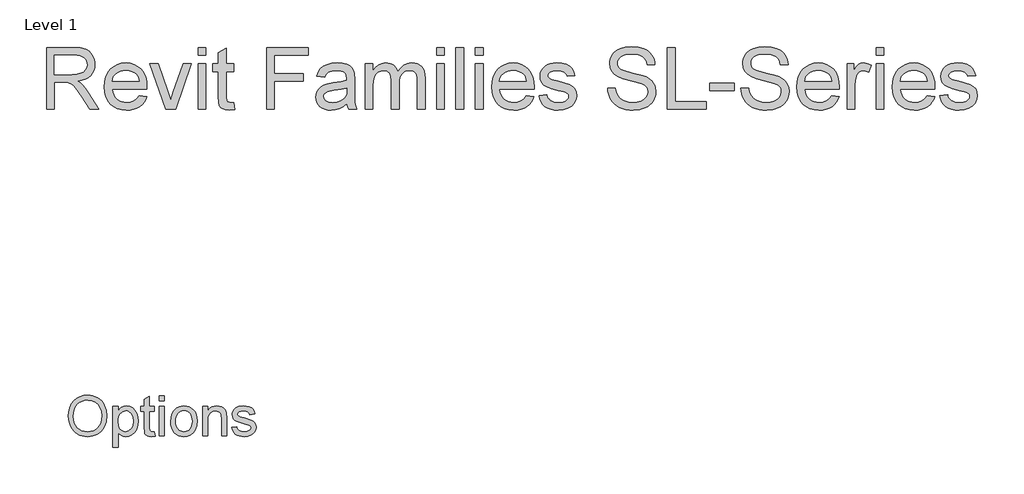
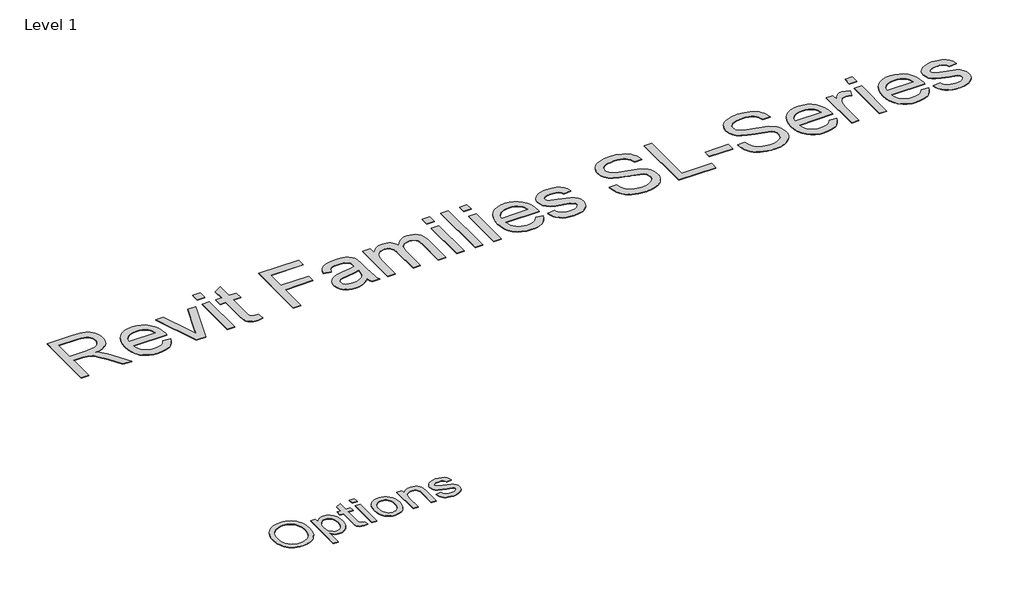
# One storey, part 48 of 52: 2 proxies.
"""IFC4 building model written with IfcOpenShell, lengths in millimetres."""

from ifc_helpers import new_model, si_unit, origin, origin_with_axes, place, context, project, spatial, polyline, outline, extrude, element, save

model = new_model("IFC4")

# Units and contexts
model_context = context("Model", 3, world=origin())
ifc_project = project(units=[si_unit("LENGTHUNIT", "METRE", prefix="MILLI")], contexts=[model_context])

# Site, building, storey
site = spatial("IfcSite", under=ifc_project)
building = spatial("IfcBuilding", under=site)
storey = spatial("IfcBuildingStorey", under=building, Name="Level 1", Elevation=0.0)

# Proxies
placement = place(None, origin())
element("IfcBuildingElementProxy", 1, Name="400mm Arial", ObjectType="400mm Arial", at=placement, inside=storey, context=model_context, shape_type="SweptSolid", body=[
    extrude(outline(polyline([(-6462.261333, 17542.0194987), (-6458.9974836, 17587.9704339), (-6449.2059353, 17628.6489968), (-6432.8866881, 17664.0551876), (-6410.0397421, 17694.1890063), (-6382.0340011, 17718.2494348), (-6350.238369, 17735.4354552), (-6314.6528458, 17745.7470674), (-6275.2774315, 17749.1842715), (-6248.9215484, 17747.57028), (-6223.892725, 17742.7283055), (-6200.1909613, 17734.6583482), (-6177.8162572, 17723.3604078), (-6157.3962762, 17709.1752161), (-6139.5586815, 17692.4435044), (-6124.3034732, 17673.1652729), (-6111.6306512, 17651.3405215), (-6101.671726, 17627.4654031), (-6094.558208, 17602.0360707), (-6088.8673936, 17546.5147639), (-6094.8570953, 17490.2522165), (-6102.3442224, 17464.4701971), (-6112.8262004, 17440.2543472), (-6126.0549528, 17418.2442857), (-6141.7824031, 17399.0796313), (-6160.0085513, 17382.7603841), (-6180.7333974, 17369.2865442), (-6226.4153339, 17351.2098396), (-6275.5643633, 17345.1842715), (-6302.3805328, 17346.8490738), (-6327.7381322, 17351.8434807), (-6351.6371616, 17360.1674923), (-6374.0776209, 17371.8211086), (-6394.473691, 17386.3530096), (-6412.2395527, 17403.3118756), (-6427.3752061, 17422.6977066), (-6439.8806512, 17444.5105025), (-6456.6661625, 17491.91403), (-6462.261333, 17542.0194987)]), holes=[polyline([(-6413.291636, 17541.541279), (-6410.843749, 17509.0761393), (-6403.5000877, 17480.2574249), (-6391.2606524, 17455.0851356), (-6374.1254429, 17433.5592715), (-6353.2959862, 17416.3194514), (-6329.9738093, 17404.0052942), (-6304.1589123, 17396.6167999), (-6275.8512951, 17394.1539684), (-6247.0594805, 17396.6407108), (-6220.9397184, 17404.1009381), (-6197.4920089, 17416.5346502), (-6176.7163519, 17433.9418472), (-6159.7066751, 17455.92202), (-6147.5569059, 17482.0746597), (-6140.2670444, 17512.3997662), (-6137.8370906, 17546.8973396), (-6141.9976019, 17590.2479552), (-6154.479136, 17627.7164684), (-6174.9588946, 17658.3583955), (-6203.1140792, 17681.2292525), (-6237.0796332, 17695.468244), (-6274.9904997, 17700.2145745), (-6302.3147776, 17697.9280866), (-6327.6663993, 17691.0686228), (-6351.0453647, 17679.6361831), (-6372.4516739, 17663.6307677), (-6390.3191573, 17642.2812471), (-6403.0816455, 17614.8164921), (-6410.7391384, 17581.2365027), (-6413.291636, 17541.541279)])]), origin_with_axes(), (0.0, 0.0, 1.0), 5.0),
    extrude(outline(polyline([(-6027.6552724, 17241.1236654), (-6027.6552724, 17639.0024533), (-5978.6855754, 17639.0024533), (-5978.6855754, 17590.9891957), (-5962.7130375, 17614.6730262), (-5944.8276209, 17631.590048), (-5923.9772421, 17641.740261), (-5899.1098179, 17645.1236654), (-5865.9931038, 17640.3892904), (-5837.0369012, 17626.1861654), (-5813.4606701, 17603.3750858), (-5796.4838709, 17572.8168472), (-5786.2260584, 17536.7351711), (-5782.8067875, 17497.353779), (-5786.6684116, 17455.4736891), (-5798.2532838, 17418.0171313), (-5817.1907838, 17386.885029), (-5843.1102913, 17363.9783055), (-5873.2979097, 17349.88278), (-5905.0397421, 17345.1842715), (-5927.5519343, 17348.328566), (-5947.6491171, 17357.7614495), (-5964.8530707, 17372.000441), (-5978.6855754, 17389.5630593), (-5978.6855754, 17241.1236654), (-6027.6552724, 17241.1236654)]), holes=[polyline([(-5978.6855754, 17492.8585139), (-5973.3892923, 17448.9579457), (-5966.7689384, 17431.9572355), (-5957.5004429, 17418.2562411), (-5934.0557222, 17400.1795366), (-5920.6386708, 17395.6603605), (-5906.0918254, 17394.1539684), (-5891.3357589, 17395.7141602), (-5877.6736199, 17400.3947355), (-5853.6311247, 17419.1170366), (-5844.0697196, 17433.3141839), (-5837.2401446, 17450.9425574), (-5831.7764845, 17496.4929836), (-5837.1086341, 17540.1544419), (-5843.7738212, 17557.2866625), (-5853.105083, 17571.2865442), (-5876.5139372, 17589.9371124), (-5889.778556, 17594.5997544), (-5904.0833027, 17596.1539684), (-5918.3432163, 17594.5011216), (-5931.7602677, 17589.5425811), (-5956.0657838, 17569.7084192), (-5965.9619426, 17554.9882191), (-5973.0306275, 17537.2731682), (-5977.2718384, 17516.5632665), (-5978.6855754, 17492.8585139)])]), origin_with_axes(), (0.0, 0.0, 1.0), 5.0),
    extrude(outline(polyline([(-5623.6552724, 17392.1454457), (-5617.5340603, 17349.8708245), (-5654.1656891, 17345.1842715), (-5677.6701872, 17347.2167052), (-5695.1969391, 17353.3140063), (-5707.5828292, 17362.7110233), (-5715.6647421, 17374.6426048), (-5720.1121853, 17395.1343188), (-5721.5946663, 17430.2117336), (-5721.5946663, 17590.0327563), (-5758.3219391, 17590.0327563), (-5758.3219391, 17639.0024533), (-5721.5946663, 17639.0024533), (-5721.5946663, 17708.918173), (-5672.6249694, 17737.7069987), (-5672.6249694, 17639.0024533), (-5623.6552724, 17639.0024533), (-5623.6552724, 17590.0327563), (-5672.6249694, 17590.0327563), (-5672.6249694, 17431.6463927), (-5670.042583, 17406.3963927), (-5661.6737383, 17397.4536843), (-5644.9838709, 17394.1539684), (-5623.6552724, 17392.1454457)])), origin_with_axes(), (0.0, 0.0, 1.0), 5.0),
    extrude(outline(polyline([(-5574.6855754, 17351.3054836), (-5574.6855754, 17639.0024533), (-5525.7158785, 17639.0024533), (-5525.7158785, 17351.3054836), (-5574.6855754, 17351.3054836)])), origin_with_axes(), (0.0, 0.0, 1.0), 5.0),
    extrude(outline(polyline([(-5574.6855754, 17694.0933624), (-5574.6855754, 17743.0630593), (-5525.7158785, 17743.0630593), (-5525.7158785, 17694.0933624), (-5574.6855754, 17694.0933624)])), origin_with_axes(), (0.0, 0.0, 1.0), 5.0),
    extrude(outline(polyline([(-5464.5037572, 17495.1539684), (-5461.8556157, 17532.4132606), (-5453.911191, 17564.5197355), (-5440.6704831, 17591.4733931), (-5422.1334921, 17613.2742336), (-5403.4709684, 17627.20836), (-5382.871655, 17637.1613074), (-5360.3355518, 17643.1330759), (-5335.8626588, 17645.1236654), (-5308.8462348, 17642.6996893), (-5284.4181749, 17635.427761), (-5262.5784791, 17623.3078806), (-5243.3271474, 17606.340048), (-5227.6146415, 17585.0981268), (-5216.391423, 17560.1559807), (-5209.6574919, 17531.5136098), (-5207.4128482, 17499.1710139), (-5211.3820716, 17449.6991862), (-5223.2897421, 17412.0393851), (-5242.7891502, 17383.8363785), (-5269.5335868, 17362.7349343), (-5301.2993302, 17349.5719372), (-5335.8626588, 17345.1842715), (-5363.273614, 17347.5992809), (-5387.9288283, 17354.8443093), (-5409.8283015, 17366.9193567), (-5428.9720338, 17383.824423), (-5444.5171628, 17405.2725764), (-5455.6208264, 17430.9768851), (-5462.2830245, 17460.9373491), (-5464.5037572, 17495.1539684)]), holes=[polyline([(-5415.5340603, 17495.2496124), (-5414.1173344, 17471.4970378), (-5409.8671569, 17450.9306019), (-5402.7835276, 17433.5503048), (-5392.8664466, 17419.3561465), (-5380.8033548, 17408.3301936), (-5367.2816929, 17400.4545129), (-5352.3014608, 17395.7291045), (-5335.8626588, 17394.1539684), (-5319.5075451, 17395.7380712), (-5304.5870906, 17400.4903794), (-5291.1012951, 17408.4108931), (-5279.0501588, 17419.4996124), (-5269.1330778, 17433.8342478), (-5262.0494485, 17451.4925101), (-5257.799271, 17472.4743993), (-5256.3825451, 17496.7799154), (-5257.8082376, 17519.7792939), (-5262.085315, 17539.8077326), (-5269.2137774, 17556.8652314), (-5279.1936247, 17570.9517904), (-5291.2895941, 17581.9777433), (-5304.766423, 17589.8534239), (-5319.6241112, 17594.5788323), (-5335.8626588, 17596.1539684), (-5352.3014608, 17594.58481), (-5367.2816929, 17589.8773349), (-5380.8033548, 17582.031543), (-5392.8664466, 17571.0474343), (-5402.7835276, 17556.8951202), (-5409.8671569, 17539.5447118), (-5414.1173344, 17518.9962092), (-5415.5340603, 17495.2496124)])]), origin_with_axes(), (0.0, 0.0, 1.0), 5.0),
    extrude(outline(polyline([(-5152.3219391, 17351.3054836), (-5152.3219391, 17639.0024533), (-5103.3522421, 17639.0024533), (-5103.3522421, 17598.8319987), (-5086.3395764, 17619.0846029), (-5065.9076398, 17633.5507487), (-5042.0564324, 17642.2304362), (-5014.7859542, 17645.1236654), (-4990.647815, 17642.7923444), (-4968.5421095, 17635.7983813), (-4950.1067402, 17625.0145271), (-4936.9796095, 17611.3135328), (-4928.0727677, 17594.7312648), (-4922.2982648, 17575.3035896), (-4919.7158785, 17527.9598396), (-4919.7158785, 17351.3054836), (-4968.6855754, 17351.3054836), (-4968.6855754, 17521.3604078), (-4970.0963235, 17546.6821408), (-4974.3285679, 17564.6871124), (-4982.1355044, 17577.5870887), (-4994.2703292, 17587.5938358), (-5009.8244249, 17594.0139353), (-5027.8891739, 17596.1539684), (-5056.5704002, 17591.3478605), (-5081.0193822, 17576.9295366), (-5090.7900084, 17565.1593543), (-5097.7690271, 17549.0732393), (-5101.9564384, 17528.6711914), (-5103.3522421, 17503.9532108), (-5103.3522421, 17351.3054836), (-5152.3219391, 17351.3054836)])), origin_with_axes(), (0.0, 0.0, 1.0), 5.0),
    extrude(outline(polyline([(-4870.7461815, 17437.0024533), (-4821.7764845, 17443.1236654), (-4814.0532364, 17422.1776427), (-4799.1088709, 17406.7789684), (-4776.847744, 17397.3102184), (-4747.1742118, 17394.1539684), (-4717.8593444, 17397.0471976), (-4697.2480754, 17405.7268851), (-4685.0534732, 17418.3040631), (-4680.9886057, 17432.8897639), (-4685.0773841, 17445.371298), (-4697.3437194, 17454.8878699), (-4747.7480754, 17468.8518851), (-4821.4895527, 17492.8106919), (-4840.1520764, 17504.8498728), (-4853.6737383, 17520.7865442), (-4861.8871616, 17539.6044893), (-4864.6249694, 17560.2874911), (-4862.4251588, 17579.2608576), (-4855.8257269, 17596.775654), (-4845.4244485, 17612.1384618), (-4831.8190982, 17624.6558624), (-4800.6869959, 17639.1459192), (-4758.5558406, 17645.1236654), (-4726.6824978, 17642.7206114), (-4698.9696663, 17635.5114495), (-4676.6846285, 17624.2015536), (-4661.0946663, 17609.496298), (-4650.7651209, 17590.3077326), (-4644.261333, 17565.5479078), (-4693.23103, 17559.4266957), (-4699.4120196, 17574.8373254), (-4711.6424883, 17586.4461086), (-4730.0419911, 17593.7270035), (-4754.730083, 17596.1539684), (-4782.8494012, 17593.8346029), (-4801.5956133, 17586.8765063), (-4812.1403576, 17576.8338927), (-4815.6552724, 17565.260976), (-4809.8209921, 17551.010029), (-4791.5529997, 17540.2022639), (-4749.3740224, 17529.7770745), (-4677.4976019, 17506.7268851), (-4658.51228, 17495.7039211), (-4644.1178671, 17480.6160896), (-4635.0436483, 17461.4155688), (-4632.0189088, 17438.0545366), (-4635.56969, 17413.9044419), (-4646.2220338, 17391.1890063), (-4663.5694533, 17371.6895982), (-4687.2054618, 17357.1875858), (-4715.7551777, 17348.1851), (-4747.8437194, 17345.1842715), (-4774.1996024, 17346.630886), (-4797.2199031, 17350.9707298), (-4816.9046214, 17358.2038027), (-4833.2537572, 17368.3301048), (-4846.6080423, 17381.3018141), (-4857.308208, 17397.0711086), (-4865.3542544, 17415.6379883), (-4870.7461815, 17437.0024533)])), origin_with_axes(), (0.0, 0.0, 1.0), 5.0),
])
element("IfcBuildingElementProxy", 2, Name="600mm Arial", ObjectType="600mm Arial", at=placement, inside=storey, context=model_context, shape_type="SweptSolid", body=[
    extrude(outline(polyline([(-6675.7189768, 20541.6162982), (-6675.7189768, 21144.3541591), (-6415.9942882, 21144.3541591), (-6346.1886797, 21140.2890631), (-6295.4025702, 21128.0937749), (-6275.8036569, 21118.4000843), (-6258.2832769, 21105.5793968), (-6242.8414302, 21089.6317123), (-6229.4781167, 21070.5570309), (-6218.6945757, 21049.3808235), (-6210.9920464, 21027.1285613), (-6206.3705289, 21003.8002443), (-6204.830023, 20979.3958725), (-6207.3822044, 20948.4386026), (-6215.0387484, 20920.0197184), (-6227.7996551, 20894.1392201), (-6245.6649245, 20870.7971075), (-6268.8644828, 20850.7383417), (-6297.6282563, 20834.7078838), (-6331.956245, 20822.7057337), (-6371.8484488, 20814.7318914), (-6347.0164141, 20798.5082954), (-6329.0269846, 20782.5054286), (-6298.1616852, 20745.9011701), (-6267.9585734, 20704.9559041), (-6167.4532123, 20541.6162982), (-6255.0091272, 20541.6162982), (-6333.4415685, 20666.5490238), (-6390.0953958, 20749.2488963), (-6411.15664, 20773.3635611), (-6429.9002277, 20788.3179642), (-6465.731934, 20802.665362), (-6509.436315, 20805.3141124), (-6600.3767442, 20805.3141124), (-6600.3767442, 20541.6162982), (-6675.7189768, 20541.6162982)]), holes=[polyline([(-6600.3767442, 20880.656345), (-6431.7396376, 20880.656345), (-6383.307973, 20883.3234894), (-6345.7288272, 20891.3249228), (-6317.4387017, 20905.194074), (-6296.8740982, 20925.464372), (-6284.3477163, 20949.983707), (-6280.1722556, 20976.5999693), (-6282.1634169, 20995.8677888), (-6288.1369008, 21013.3513806), (-6298.0927073, 21029.0507448), (-6312.0308364, 21042.9658812), (-6330.2731848, 21054.361026), (-6353.1416494, 21062.5004152), (-6380.63623, 21067.3840487), (-6412.7569267, 21069.0119265), (-6600.3767442, 21069.0119265), (-6600.3767442, 20880.656345)])]), origin_with_axes(), (0.0, 0.0, 1.0), 5.0),
    extrude(outline(polyline([(-5772.4951023, 20673.4652053), (-5698.6243976, 20664.0474262), (-5709.9505646, 20634.4605167), (-5725.24066, 20608.3868803), (-5744.4946839, 20585.826517), (-5767.7126363, 20566.7794267), (-5794.655394, 20551.6502796), (-5825.0838335, 20540.843746), (-5858.9979549, 20534.3598259), (-5896.3977583, 20532.1985191), (-5943.1463628, 20535.9279229), (-5984.7998017, 20547.116134), (-6021.358075, 20565.7631527), (-6052.8211826, 20591.8689787), (-6078.1222668, 20624.7070453), (-6096.1944698, 20663.5507855), (-6107.0377916, 20708.4001992), (-6110.6522322, 20759.2552866), (-6107.0010034, 20811.8348207), (-6096.047317, 20858.1787551), (-6077.791173, 20898.2870896), (-6052.2325714, 20932.1598243), (-6020.8522372, 20959.0703922), (-5985.1308955, 20978.2922265), (-5945.0685462, 20989.825327), (-5900.6651894, 20993.6696939), (-5857.6919738, 20989.8345241), (-5818.8298396, 20978.3290147), (-5784.0787866, 20959.1531657), (-5753.4388149, 20932.3069771), (-5728.4274378, 20898.5078188), (-5710.5621684, 20858.4730607), (-5699.8430068, 20812.2027027), (-5696.2699529, 20759.6967449), (-5696.7114113, 20739.3896588), (-6035.3099996, 20739.3896588), (-6030.9459995, 20709.3245028), (-6022.2685829, 20682.993349), (-6009.27775, 20660.3961974), (-5991.9735006, 20641.5330481), (-5971.312328, 20626.6614184), (-5948.2507255, 20616.0388258), (-5922.7886929, 20609.6652703), (-5894.9262303, 20607.5407517), (-5854.8270928, 20611.4770891), (-5821.0555256, 20623.2861011), (-5793.6115288, 20643.7035519), (-5772.4951023, 20673.4652053)]), holes=[polyline([(-6035.3099996, 20814.7318914), (-5771.6121855, 20814.7318914), (-5781.8025168, 20854.5367233), (-5790.5673053, 20870.1901022), (-5801.7785091, 20883.0107897), (-5822.3247185, 20898.4618335), (-5845.7036193, 20909.4982934), (-5871.9152115, 20916.1201693), (-5900.959495, 20918.3274613), (-5927.4515972, 20916.5662262), (-5951.7456044, 20911.2825211), (-5973.8415168, 20902.4763458), (-5993.7393342, 20890.1477004), (-6010.4365782, 20874.8668021), (-6022.9307705, 20857.2038678), (-6031.221911, 20837.1588976), (-6035.3099996, 20814.7318914)])]), origin_with_axes(), (0.0, 0.0, 1.0), 5.0),
    extrude(outline(polyline([(-5512.3289553, 20541.6162982), (-5668.0166157, 20984.2519148), (-5588.2597991, 20984.2519148), (-5493.9348555, 20719.0825727), (-5465.5343655, 20629.9079771), (-5437.7224867, 20714.0793775), (-5342.8089319, 20984.2519148), (-5263.0521154, 20984.2519148), (-5416.8267893, 20541.6162982), (-5512.3289553, 20541.6162982)])), origin_with_axes(), (0.0, 0.0, 1.0), 5.0),
    extrude(outline(polyline([(-5197.1276618, 21069.0119265), (-5197.1276618, 21144.3541591), (-5121.7854292, 21144.3541591), (-5121.7854292, 21069.0119265), (-5197.1276618, 21069.0119265)])), origin_with_axes(), (0.0, 0.0, 1.0), 5.0),
    extrude(outline(polyline([(-5197.1276618, 20541.6162982), (-5197.1276618, 20984.2519148), (-5121.7854292, 20984.2519148), (-5121.7854292, 20541.6162982), (-5197.1276618, 20541.6162982)])), origin_with_axes(), (0.0, 0.0, 1.0), 5.0),
    extrude(outline(polyline([(-4848.669836, 20604.450543), (-4839.2520569, 20539.4090062), (-4895.6115786, 20532.1985191), (-4931.7743787, 20535.3255161), (-4958.7401289, 20544.706507), (-4977.7964163, 20559.1642694), (-4990.2308277, 20577.5215809), (-4997.0734328, 20609.0490679), (-4999.3543012, 20663.0173566), (-4999.3543012, 20908.9096822), (-5055.8609757, 20908.9096822), (-5055.8609757, 20984.2519148), (-4999.3543012, 20984.2519148), (-4999.3543012, 21091.8206102), (-4924.0120686, 21136.1136024), (-4924.0120686, 20984.2519148), (-4848.669836, 20984.2519148), (-4848.669836, 20908.9096822), (-4924.0120686, 20908.9096822), (-4924.0120686, 20665.2246486), (-4920.0389431, 20626.3763099), (-4907.1630732, 20612.6175233), (-4896.2921603, 20608.8099446), (-4881.48491, 20607.5407517), (-4848.669836, 20604.450543)])), origin_with_axes(), (0.0, 0.0, 1.0), 5.0),
    extrude(outline(polyline([(-4528.4653474, 20541.6162982), (-4528.4653474, 21144.3541591), (-4123.5008471, 21144.3541591), (-4123.5008471, 21069.0119265), (-4453.1231148, 21069.0119265), (-4453.1231148, 20890.074124), (-4170.5897425, 20890.074124), (-4170.5897425, 20814.7318914), (-4453.1231148, 20814.7318914), (-4453.1231148, 20541.6162982), (-4528.4653474, 20541.6162982)])), origin_with_axes(), (0.0, 0.0, 1.0), 5.0),
    extrude(outline(polyline([(-3746.789684, 20598.1229727), (-3782.7869373, 20567.2576733), (-3819.8510483, 20547.0609517), (-3858.8281457, 20535.9141273), (-3900.564358, 20532.1985191), (-3934.1105975, 20534.4334023), (-3963.5273615, 20541.1380516), (-3988.8146501, 20552.3124672), (-4009.9724634, 20567.9566491), (-4026.6789045, 20587.0773158), (-4038.6120767, 20608.6811859), (-4045.77198, 20632.7682596), (-4048.1586145, 20659.3385367), (-4044.5533709, 20690.5717181), (-4033.7376403, 20718.9354199), (-4017.0541918, 20743.2156316), (-3995.8457948, 20762.1983425), (-3970.9217896, 20776.5457403), (-3943.0915167, 20786.9200126), (-3877.9028271, 20798.250778), (-3800.8683373, 20810.1701547), (-3747.2311424, 20824.1496705), (-3746.789684, 20840.9250895), (-3751.9768202, 20874.5495038), (-3758.4607403, 20887.0023094), (-3767.5382286, 20896.5488472), (-3783.2283957, 20906.0769908), (-3802.3398653, 20912.8828077), (-3850.8267123, 20918.3274613), (-3895.7083157, 20914.7038236), (-3927.0518617, 20903.8329107), (-3948.4258056, 20883.7281596), (-3963.3986028, 20852.4030077), (-4038.7408354, 20861.8207868), (-4025.6626305, 20903.0235703), (-4006.1464906, 20935.3971858), (-3978.3714, 20960.1556441), (-3940.5163427, 20978.5129557), (-3894.2183936, 20989.8805093), (-3841.1146276, 20993.6696939), (-3790.1813654, 20990.3219677), (-3749.8063164, 20980.2787893), (-3719.3640813, 20965.1772334), (-3698.2292607, 20946.6543749), (-3684.2129567, 20923.7537207), (-3675.1262714, 20895.5187776), (-3671.4474514, 20829.594324), (-3671.4474514, 20735.8579917), (-3667.6214787, 20604.9655778), (-3661.956096, 20572.6103563), (-3652.6118933, 20541.6162982), (-3727.9541259, 20541.6162982), (-3740.0206553, 20567.8094963), (-3746.789684, 20598.1229727)]), holes=[polyline([(-3746.789684, 20748.8074379), (-3797.4102466, 20736.2626619), (-3868.3378952, 20725.7044486), (-3933.1587028, 20713.4907664), (-3950.0260923, 20705.1398451), (-3962.515686, 20693.6251386), (-3970.2412079, 20679.8295638), (-3972.8163819, 20664.6360374), (-3967.2061814, 20642.2320239), (-3950.3755802, 20623.8747123), (-3922.69246, 20611.6242419), (-3884.524703, 20607.5407517), (-3844.0576836, 20612.0473062), (-3808.2995536, 20625.5669695), (-3779.3104524, 20645.4877795), (-3759.1505191, 20669.1977741), (-3750.2109866, 20693.6251386), (-3747.2311424, 20727.4702822), (-3746.789684, 20748.8074379)])]), origin_with_axes(), (0.0, 0.0, 1.0), 5.0),
    extrude(outline(polyline([(-3567.8518816, 20541.6162982), (-3567.8518816, 20984.2519148), (-3492.509649, 20984.2519148), (-3492.509649, 20911.4112798), (-3469.8481181, 20944.8701472), (-3440.7118641, 20971.0817394), (-3406.0941683, 20988.0227053), (-3366.9883122, 20993.6696939), (-3325.086553, 20987.9123407), (-3307.2534733, 20980.7156491), (-3291.4989268, 20970.640281), (-3266.4093747, 20942.993949), (-3250.0018378, 20906.113779), (-3222.5394468, 20944.4194918), (-3191.2142949, 20971.7807152), (-3156.0263821, 20988.1974492), (-3116.9757083, 20993.6696939), (-3086.8139832, 20991.393424), (-3060.3402751, 20984.5646145), (-3037.5545841, 20973.1832653), (-3018.45691, 20957.2493764), (-3003.3599526, 20936.5790068), (-2992.5764116, 20910.9882155), (-2986.106287, 20880.4770025), (-2983.9495788, 20845.0453678), (-2983.9495788, 20541.6162982), (-3059.2918115, 20541.6162982), (-3059.2918115, 20812.6717523), (-3061.0392509, 20850.2508981), (-3066.2815694, 20875.5795734), (-3076.1040186, 20892.9252095), (-3091.5918506, 20906.5552374), (-3111.5126607, 20915.3844053), (-3134.6340441, 20918.3274613), (-3155.9849954, 20916.442066), (-3175.4505514, 20910.7858804), (-3193.0307123, 20901.3589042), (-3208.7254779, 20888.1611377), (-3221.6335374, 20870.8063045), (-3230.8535799, 20848.9081288), (-3236.3856054, 20822.4666104), (-3238.2296139, 20791.4817493), (-3238.2296139, 20541.6162982), (-3313.5718465, 20541.6162982), (-3313.5718465, 20821.0594617), (-3317.9312482, 20863.6601968), (-3323.3805002, 20880.3804335), (-3331.0094531, 20894.0472496), (-3341.1216094, 20904.6698422), (-3354.0204719, 20912.2574083), (-3369.7060405, 20916.809948), (-3388.1783151, 20918.3274613), (-3417.2042046, 20914.2807593), (-3443.9492256, 20902.1406535), (-3466.0221453, 20882.2014493), (-3481.0317307, 20854.7574525), (-3489.6401694, 20816.681666), (-3492.509649, 20764.8470929), (-3492.509649, 20541.6162982), (-3567.8518816, 20541.6162982)])), origin_with_axes(), (0.0, 0.0, 1.0), 5.0),
    extrude(outline(polyline([(-2870.9362299, 21069.0119265), (-2870.9362299, 21144.3541591), (-2795.5939973, 21144.3541591), (-2795.5939973, 21069.0119265), (-2870.9362299, 21069.0119265)])), origin_with_axes(), (0.0, 0.0, 1.0), 5.0),
    extrude(outline(polyline([(-2870.9362299, 20541.6162982), (-2870.9362299, 20984.2519148), (-2795.5939973, 20984.2519148), (-2795.5939973, 20541.6162982), (-2870.9362299, 20541.6162982)])), origin_with_axes(), (0.0, 0.0, 1.0), 5.0),
    extrude(outline(polyline([(-2682.5806484, 20541.6162982), (-2682.5806484, 21144.3541591), (-2607.2384158, 21144.3541591), (-2607.2384158, 20541.6162982), (-2682.5806484, 20541.6162982)])), origin_with_axes(), (0.0, 0.0, 1.0), 5.0),
    extrude(outline(polyline([(-2494.2250669, 21069.0119265), (-2494.2250669, 21144.3541591), (-2418.8828342, 21144.3541591), (-2418.8828342, 21069.0119265), (-2494.2250669, 21069.0119265)])), origin_with_axes(), (0.0, 0.0, 1.0), 5.0),
    extrude(outline(polyline([(-2494.2250669, 20541.6162982), (-2494.2250669, 20984.2519148), (-2418.8828342, 20984.2519148), (-2418.8828342, 20541.6162982), (-2494.2250669, 20541.6162982)])), origin_with_axes(), (0.0, 0.0, 1.0), 5.0),
    extrude(outline(polyline([(-1995.9656926, 20673.4652053), (-1922.094988, 20664.0474262), (-1933.4211549, 20634.4605167), (-1948.7112503, 20608.3868803), (-1967.9652742, 20585.826517), (-1991.1832267, 20566.7794267), (-2018.1259843, 20551.6502796), (-2048.5544238, 20540.843746), (-2082.4685452, 20534.3598259), (-2119.8683486, 20532.1985191), (-2166.6169531, 20535.9279229), (-2208.270392, 20547.116134), (-2244.8286653, 20565.7631527), (-2276.2917729, 20591.8689787), (-2301.5928571, 20624.7070453), (-2319.6650602, 20663.5507855), (-2330.508382, 20708.4001992), (-2334.1228226, 20759.2552866), (-2330.4715938, 20811.8348207), (-2319.5179074, 20858.1787551), (-2301.2617633, 20898.2870896), (-2275.7031617, 20932.1598243), (-2244.3228275, 20959.0703922), (-2208.6014858, 20978.2922265), (-2168.5391365, 20989.825327), (-2124.1357797, 20993.6696939), (-2081.1625642, 20989.8345241), (-2042.3004299, 20978.3290147), (-2007.5493769, 20959.1531657), (-1976.9094052, 20932.3069771), (-1951.8980281, 20898.5078188), (-1934.0327587, 20858.4730607), (-1923.3135971, 20812.2027027), (-1919.7405432, 20759.6967449), (-1920.1820016, 20739.3896588), (-2258.7805899, 20739.3896588), (-2254.4165898, 20709.3245028), (-2245.7391732, 20682.993349), (-2232.7483403, 20660.3961974), (-2215.4440909, 20641.5330481), (-2194.7829184, 20626.6614184), (-2171.7213158, 20616.0388258), (-2146.2592832, 20609.6652703), (-2118.3968206, 20607.5407517), (-2078.2976831, 20611.4770891), (-2044.526116, 20623.2861011), (-2017.0821191, 20643.7035519), (-1995.9656926, 20673.4652053)]), holes=[polyline([(-2258.7805899, 20814.7318914), (-1995.0827758, 20814.7318914), (-2005.2731071, 20854.5367233), (-2014.0378956, 20870.1901022), (-2025.2490994, 20883.0107897), (-2045.7953088, 20898.4618335), (-2069.1742096, 20909.4982934), (-2095.3858018, 20916.1201693), (-2124.4300853, 20918.3274613), (-2150.9221875, 20916.5662262), (-2175.2161947, 20911.2825211), (-2197.3121071, 20902.4763458), (-2217.2099245, 20890.1477004), (-2233.9071685, 20874.8668021), (-2246.4013608, 20857.2038678), (-2254.6925013, 20837.1588976), (-2258.7805899, 20814.7318914)])]), origin_with_axes(), (0.0, 0.0, 1.0), 5.0),
    extrude(outline(polyline([(-1872.6516478, 20673.4652053), (-1797.3094152, 20682.8829844), (-1792.7568755, 20665.7028952), (-1785.4268268, 20650.6565216), (-1775.3192689, 20637.7438635), (-1762.4342021, 20626.9649211), (-1746.7348379, 20618.466847), (-1728.1843883, 20612.3967941), (-1682.5302327, 20607.5407517), (-1637.4279001, 20611.9921239), (-1619.898323, 20617.5563391), (-1605.7164721, 20625.3462403), (-1586.9544904, 20644.6968333), (-1582.2639949, 20655.530958), (-1580.7004964, 20667.137635), (-1582.273192, 20677.3095721), (-1586.9912786, 20686.3410751), (-1605.8636249, 20700.9827785), (-1634.0801739, 20710.5477104), (-1683.4131495, 20722.467087), (-1752.1702944, 20742.3511089), (-1796.8679568, 20759.328863), (-1825.5811465, 20777.8517214), (-1846.3848734, 20802.3710564), (-1859.0216199, 20831.3233694), (-1863.2338687, 20863.145162), (-1859.8493544, 20892.3365983), (-1849.6958113, 20919.2839545), (-1833.6929445, 20942.9203726), (-1812.760459, 20962.1789951), (-1791.9567322, 20974.3007068), (-1764.8622232, 20984.472644), (-1733.5370713, 20991.3704314), (-1700.0414157, 20993.6696939), (-1651.0027457, 20989.9724798), (-1608.3652225, 20978.8808377), (-1574.0786205, 20961.4800193), (-1550.0927144, 20938.8552766), (-1534.2002122, 20909.3327465), (-1524.193822, 20871.2385659), (-1599.5360546, 20861.8207868), (-1609.0458042, 20885.5307814), (-1627.8629682, 20903.3914523), (-1656.1714877, 20914.593459), (-1694.1553038, 20918.3274613), (-1737.4182264, 20914.7590059), (-1766.2601748, 20904.0536399), (-1782.4837708, 20888.6025961), (-1787.8916361, 20870.7971075), (-1785.647556, 20859.2088246), (-1778.9153154, 20848.8713406), (-1767.400609, 20839.6375025), (-1750.809131, 20832.2430744), (-1685.9147471, 20816.2034194), (-1575.3294193, 20780.7395951), (-1546.1195889, 20763.7802351), (-1523.9730928, 20740.5668812), (-1510.0119711, 20711.025957), (-1505.3582638, 20675.0838861), (-1510.8213115, 20637.9278045), (-1527.2104543, 20602.979015), (-1553.9002931, 20572.9782383), (-1590.2654283, 20550.6661953), (-1634.1905385, 20536.8154382), (-1683.5603023, 20532.1985191), (-1724.1100952, 20534.4242052), (-1759.5279343, 20541.1012634), (-1789.8138195, 20552.2296938), (-1814.967751, 20567.8094963), (-1835.5139604, 20587.7670945), (-1851.9766797, 20612.0289121), (-1864.3559088, 20640.594949), (-1872.6516478, 20673.4652053)])), origin_with_axes(), (0.0, 0.0, 1.0), 5.0),
    extrude(outline(polyline([(-1203.9893334, 20748.8074379), (-1128.6471008, 20748.8074379), (-1120.0018739, 20706.9976491), (-1104.3668891, 20673.3916289), (-1079.9763128, 20646.7201842), (-1045.0643115, 20625.7141223), (-1002.39, 20612.0840944), (-954.7124934, 20607.5407517), (-912.7371578, 20610.9804484), (-875.9857465, 20621.2995384), (-846.205699, 20637.6334989), (-825.1444547, 20659.1178075), (-812.6180728, 20683.7842952), (-808.4426122, 20709.6647936), (-811.5696091, 20734.8831044), (-820.9506, 20756.6801126), (-840.0068873, 20775.2765474), (-872.1597737, 20790.8931381), (-981.8621847, 20819.6615102), (-1053.8750852, 20838.6994034), (-1099.9523051, 20856.8175917), (-1137.4578745, 20882.1646611), (-1164.0373487, 20912.8828077), (-1179.8746686, 20948.3098439), (-1185.1537752, 20987.783582), (-1183.5212989, 21010.2197851), (-1178.6238698, 21031.9110273), (-1170.461488, 21052.8573084), (-1159.0341536, 21073.0586284), (-1144.4706251, 21091.6918515), (-1126.8996613, 21107.9338416), (-1106.3212622, 21121.7845987), (-1082.7354278, 21133.2441229), (-1029.7236323, 21148.6399843), (-971.046454, 21153.7719382), (-907.4764453, 21148.4008611), (-851.8526876, 21132.2876297), (-827.5172936, 21120.2854796), (-806.1617438, 21105.7633378), (-787.7860381, 21088.7212044), (-772.3901766, 21069.1590793), (-760.0937209, 21047.6471796), (-751.0162327, 21024.7557225), (-745.1577119, 21000.4847078), (-742.5181586, 20974.8341357), (-817.8603912, 20974.8341357), (-822.9003746, 20998.8752241), (-831.6927543, 21019.7893155), (-844.2375303, 21037.57641), (-860.5347027, 21052.2365075), (-880.8877741, 21063.6960317), (-905.6002471, 21071.8814061), (-934.6721218, 21076.7926307), (-968.1033981, 21078.4297056), (-1002.6015322, 21076.8110248), (-1032.078077, 21071.9549825), (-1056.5330327, 21063.8615786), (-1075.9663991, 21052.5308131), (-1090.7736494, 21038.9099822), (-1101.3502567, 21023.9463821), (-1107.6962211, 21007.6400126), (-1109.8115426, 20989.9908739), (-1108.3124235, 20974.8065446), (-1103.8150661, 20961.0385609), (-1096.3194704, 20948.6869229), (-1085.8256365, 20937.7516306), (-1069.3077349, 20927.3957525), (-1043.2984779, 20916.9295097), (-962.8058973, 20895.6659304), (-879.7381428, 20875.4692088), (-829.4854623, 20857.8476613), (-786.5352394, 20830.514029), (-769.9299658, 20814.4467829), (-756.5712508, 20796.7792501), (-746.3027447, 20777.6034011), (-738.9680974, 20757.0112064), (-733.1003796, 20711.57778), (-734.7880382, 20688.0103397), (-739.8510142, 20665.1326781), (-748.2893074, 20642.9447953), (-760.102918, 20621.4466912), (-775.0849123, 20601.4706988), (-793.0283566, 20583.8491513), (-813.9332509, 20568.5820485), (-837.7995954, 20555.6693904), (-863.9330126, 20545.4008842), (-891.6391254, 20538.066237), (-951.7694375, 20532.1985191), (-990.309675, 20533.7804117), (-1025.5849598, 20538.5260894), (-1057.5952919, 20546.4355523), (-1086.3406713, 20557.5088004), (-1111.995842, 20571.7642277), (-1134.7355478, 20589.2202284), (-1154.5597888, 20609.8768024), (-1171.468565, 20633.7339498), (-1185.0893959, 20660.0191184), (-1195.0498009, 20687.9597559), (-1201.3497801, 20717.5558624), (-1203.9893334, 20748.8074379)])), origin_with_axes(), (0.0, 0.0, 1.0), 5.0),
    extrude(outline(polyline([(-620.0870306, 20541.6162982), (-620.0870306, 21144.3541591), (-544.744798, 21144.3541591), (-544.744798, 20616.9585308), (-243.3758676, 20616.9585308), (-243.3758676, 20541.6162982), (-620.0870306, 20541.6162982)])), origin_with_axes(), (0.0, 0.0, 1.0), 5.0),
    extrude(outline(polyline([(-205.7047513, 20720.5541007), (-205.7047513, 20795.8963333), (29.7397256, 20795.8963333), (29.7397256, 20720.5541007), (-205.7047513, 20720.5541007)])), origin_with_axes(), (0.0, 0.0, 1.0), 5.0),
    extrude(outline(polyline([(95.6641792, 20748.8074379), (171.0064118, 20748.8074379), (179.6516387, 20706.9976491), (195.2866235, 20673.3916289), (219.6771998, 20646.7201842), (254.5892011, 20625.7141223), (297.2635125, 20612.0840944), (344.9410191, 20607.5407517), (386.9163548, 20610.9804484), (423.6677661, 20621.2995384), (453.4478136, 20637.6334989), (474.5090578, 20659.1178075), (487.0354398, 20683.7842952), (491.2109004, 20709.6647936), (488.0839034, 20734.8831044), (478.7029126, 20756.6801126), (459.6466252, 20775.2765474), (427.4937388, 20790.8931381), (317.7913279, 20819.6615102), (245.7784273, 20838.6994034), (199.7012074, 20856.8175917), (162.195638, 20882.1646611), (135.6161639, 20912.8828077), (119.778844, 20948.3098439), (114.4997373, 20987.783582), (116.1322137, 21010.2197851), (121.0296428, 21031.9110273), (129.1920245, 21052.8573084), (140.619359, 21073.0586284), (155.1828875, 21091.6918515), (172.7538513, 21107.9338416), (193.3322504, 21121.7845987), (216.9180848, 21133.2441229), (269.9298803, 21148.6399843), (328.6070585, 21153.7719382), (392.1770673, 21148.4008611), (447.800825, 21132.2876297), (472.1362189, 21120.2854796), (493.4917688, 21105.7633378), (511.8674744, 21088.7212044), (527.2633359, 21069.1590793), (539.5597916, 21047.6471796), (548.6372798, 21024.7557225), (554.4958006, 21000.4847078), (557.1353539, 20974.8341357), (481.7931213, 20974.8341357), (476.753138, 20998.8752241), (467.9607583, 21019.7893155), (455.4159823, 21037.57641), (439.1188099, 21052.2365075), (418.7657385, 21063.6960317), (394.0532655, 21071.8814061), (364.9813908, 21076.7926307), (331.5501145, 21078.4297056), (297.0519804, 21076.8110248), (267.5754355, 21071.9549825), (243.1204799, 21063.8615786), (223.6871135, 21052.5308131), (208.8798632, 21038.9099822), (198.3032558, 21023.9463821), (191.9572914, 21007.6400126), (189.8419699, 20989.9908739), (191.3410891, 20974.8065446), (195.8384465, 20961.0385609), (203.3340421, 20948.6869229), (213.827876, 20937.7516306), (230.3457776, 20927.3957525), (256.3550347, 20916.9295097), (336.8476152, 20895.6659304), (419.9153697, 20875.4692088), (470.1680503, 20857.8476613), (513.1182732, 20830.514029), (529.7235468, 20814.4467829), (543.0822617, 20796.7792501), (553.3507679, 20777.6034011), (560.6854152, 20757.0112064), (566.553133, 20711.57778), (564.8654744, 20688.0103397), (559.8024984, 20665.1326781), (551.3642051, 20642.9447953), (539.5505946, 20621.4466912), (524.5686003, 20601.4706988), (506.625156, 20583.8491513), (485.7202616, 20568.5820485), (461.8539172, 20555.6693904), (435.7204999, 20545.4008842), (408.0143872, 20538.066237), (347.8840751, 20532.1985191), (309.3438376, 20533.7804117), (274.0685527, 20538.5260894), (242.0582206, 20546.4355523), (213.3128412, 20557.5088004), (187.6576706, 20571.7642277), (164.9179648, 20589.2202284), (145.0937238, 20609.8768024), (128.1849476, 20633.7339498), (114.5641167, 20660.0191184), (104.6037117, 20687.9597559), (98.3037325, 20717.5558624), (95.6641792, 20748.8074379)])), origin_with_axes(), (0.0, 0.0, 1.0), 5.0),
    extrude(outline(polyline([(980.0524956, 20673.4652053), (1053.9232002, 20664.0474262), (1042.5970333, 20634.4605167), (1027.3069379, 20608.3868803), (1008.0529139, 20585.826517), (984.8349615, 20566.7794267), (957.8922039, 20551.6502796), (927.4637644, 20540.843746), (893.5496429, 20534.3598259), (856.1498396, 20532.1985191), (809.4012351, 20535.9279229), (767.7477962, 20547.116134), (731.1895229, 20565.7631527), (699.7264153, 20591.8689787), (674.425331, 20624.7070453), (656.353128, 20663.5507855), (645.5098062, 20708.4001992), (641.8953656, 20759.2552866), (645.5465944, 20811.8348207), (656.5002808, 20858.1787551), (674.7564248, 20898.2870896), (700.3150265, 20932.1598243), (731.6953606, 20959.0703922), (767.4167024, 20978.2922265), (807.4790517, 20989.825327), (851.8824085, 20993.6696939), (894.855624, 20989.8345241), (933.7177583, 20978.3290147), (968.4688113, 20959.1531657), (999.1087829, 20932.3069771), (1024.1201601, 20898.5078188), (1041.9854295, 20858.4730607), (1052.7045911, 20812.2027027), (1056.277645, 20759.6967449), (1055.8361866, 20739.3896588), (717.2375982, 20739.3896588), (721.6015984, 20709.3245028), (730.279015, 20682.993349), (743.2698479, 20660.3961974), (760.5740973, 20641.5330481), (781.2352698, 20626.6614184), (804.2968724, 20616.0388258), (829.758905, 20609.6652703), (857.6213676, 20607.5407517), (897.7205051, 20611.4770891), (931.4920722, 20623.2861011), (958.9360691, 20643.7035519), (980.0524956, 20673.4652053)]), holes=[polyline([(717.2375982, 20814.7318914), (980.9354124, 20814.7318914), (970.7450811, 20854.5367233), (961.9802926, 20870.1901022), (950.7690888, 20883.0107897), (930.2228793, 20898.4618335), (906.8439785, 20909.4982934), (880.6323864, 20916.1201693), (851.5881029, 20918.3274613), (825.0960007, 20916.5662262), (800.8019934, 20911.2825211), (778.7060811, 20902.4763458), (758.8082637, 20890.1477004), (742.1110196, 20874.8668021), (729.6168274, 20857.2038678), (721.3256869, 20837.1588976), (717.2375982, 20814.7318914)])]), origin_with_axes(), (0.0, 0.0, 1.0), 5.0),
    extrude(outline(polyline([(1131.6198776, 20541.6162982), (1131.6198776, 20984.2519148), (1197.5443311, 20984.2519148), (1197.5443311, 20918.7689197), (1221.8981192, 20956.7343416), (1244.3389209, 20979.1015669), (1266.853299, 20990.0276621), (1291.4278163, 20993.6696939), (1328.9517798, 20987.8571584), (1367.0643545, 20970.4195518), (1341.901226, 20902.8764175), (1315.4137224, 20914.4647003), (1288.9262187, 20918.3274613), (1266.4302347, 20914.6118531), (1246.3254837, 20903.4650287), (1230.0834936, 20885.7331165), (1219.1757925, 20862.2622452), (1210.0155308, 20820.176545), (1206.9621102, 20774.264872), (1206.9621102, 20541.6162982), (1131.6198776, 20541.6162982)])), origin_with_axes(), (0.0, 0.0, 1.0), 5.0),
    extrude(outline(polyline([(1414.1532499, 21069.0119265), (1414.1532499, 21144.3541591), (1489.4954825, 21144.3541591), (1489.4954825, 21069.0119265), (1414.1532499, 21069.0119265)])), origin_with_axes(), (0.0, 0.0, 1.0), 5.0),
    extrude(outline(polyline([(1414.1532499, 20541.6162982), (1414.1532499, 20984.2519148), (1489.4954825, 20984.2519148), (1489.4954825, 20541.6162982), (1414.1532499, 20541.6162982)])), origin_with_axes(), (0.0, 0.0, 1.0), 5.0),
    extrude(outline(polyline([(1912.4126242, 20673.4652053), (1986.2833288, 20664.0474262), (1974.9571619, 20634.4605167), (1959.6670664, 20608.3868803), (1940.4130425, 20585.826517), (1917.1950901, 20566.7794267), (1890.2523325, 20551.6502796), (1859.823893, 20540.843746), (1825.9097715, 20534.3598259), (1788.5099682, 20532.1985191), (1741.7613637, 20535.9279229), (1700.1079247, 20547.116134), (1663.5496515, 20565.7631527), (1632.0865438, 20591.8689787), (1606.7854596, 20624.7070453), (1588.7132566, 20663.5507855), (1577.8699348, 20708.4001992), (1574.2554942, 20759.2552866), (1577.906723, 20811.8348207), (1588.8604094, 20858.1787551), (1607.1165534, 20898.2870896), (1632.675155, 20932.1598243), (1664.0554892, 20959.0703922), (1699.776831, 20978.2922265), (1739.8391802, 20989.825327), (1784.242537, 20993.6696939), (1827.2157526, 20989.8345241), (1866.0778869, 20978.3290147), (1900.8289398, 20959.1531657), (1931.4689115, 20932.3069771), (1956.4802887, 20898.5078188), (1974.3455581, 20858.4730607), (1985.0647197, 20812.2027027), (1988.6377736, 20759.6967449), (1988.1963152, 20739.3896588), (1649.5977268, 20739.3896588), (1653.961727, 20709.3245028), (1662.6391435, 20682.993349), (1675.6299765, 20660.3961974), (1692.9342258, 20641.5330481), (1713.5953984, 20626.6614184), (1736.657001, 20616.0388258), (1762.1190336, 20609.6652703), (1789.9814962, 20607.5407517), (1830.0806336, 20611.4770891), (1863.8522008, 20623.2861011), (1891.2961976, 20643.7035519), (1912.4126242, 20673.4652053)]), holes=[polyline([(1649.5977268, 20814.7318914), (1913.295541, 20814.7318914), (1903.1052097, 20854.5367233), (1894.3404212, 20870.1901022), (1883.1292173, 20883.0107897), (1862.5830079, 20898.4618335), (1839.2041071, 20909.4982934), (1812.992515, 20916.1201693), (1783.9482314, 20918.3274613), (1757.4561293, 20916.5662262), (1733.162122, 20911.2825211), (1711.0662097, 20902.4763458), (1691.1683923, 20890.1477004), (1674.4711482, 20874.8668021), (1661.9769559, 20857.2038678), (1653.6858155, 20837.1588976), (1649.5977268, 20814.7318914)])]), origin_with_axes(), (0.0, 0.0, 1.0), 5.0),
    extrude(outline(polyline([(2035.7266689, 20673.4652053), (2111.0689016, 20682.8829844), (2115.6214412, 20665.7028952), (2122.95149, 20650.6565216), (2133.0590478, 20637.7438635), (2145.9441147, 20626.9649211), (2161.6434788, 20618.466847), (2180.1939285, 20612.3967941), (2225.8480841, 20607.5407517), (2270.9504167, 20611.9921239), (2288.4799937, 20617.5563391), (2302.6618446, 20625.3462403), (2321.4238264, 20644.6968333), (2326.1143218, 20655.530958), (2327.6778203, 20667.137635), (2326.1051248, 20677.3095721), (2321.3870382, 20686.3410751), (2302.5146918, 20700.9827785), (2274.2981428, 20710.5477104), (2224.9651673, 20722.467087), (2156.2080224, 20742.3511089), (2111.51036, 20759.328863), (2082.7971702, 20777.8517214), (2061.9934434, 20802.3710564), (2049.3566969, 20831.3233694), (2045.144448, 20863.145162), (2048.5289624, 20892.3365983), (2058.6825054, 20919.2839545), (2074.6853722, 20942.9203726), (2095.6178578, 20962.1789951), (2116.4215846, 20974.3007068), (2143.5160935, 20984.472644), (2174.8412454, 20991.3704314), (2208.3369011, 20993.6696939), (2257.375571, 20989.9724798), (2300.0130943, 20978.8808377), (2334.2996962, 20961.4800193), (2358.2856023, 20938.8552766), (2374.1781045, 20909.3327465), (2384.1844948, 20871.2385659), (2308.8422622, 20861.8207868), (2299.3325126, 20885.5307814), (2280.5153485, 20903.3914523), (2252.206829, 20914.593459), (2214.223013, 20918.3274613), (2170.9600904, 20914.7590059), (2142.118142, 20904.0536399), (2125.894546, 20888.6025961), (2120.4866806, 20870.7971075), (2122.7307608, 20859.2088246), (2129.4630013, 20848.8713406), (2140.9777078, 20839.6375025), (2157.5691857, 20832.2430744), (2222.4635697, 20816.2034194), (2333.0488974, 20780.7395951), (2362.2587279, 20763.7802351), (2384.405224, 20740.5668812), (2398.3663457, 20711.025957), (2403.0200529, 20675.0838861), (2397.5570053, 20637.9278045), (2381.1678624, 20602.979015), (2354.4780237, 20572.9782383), (2318.1128884, 20550.6661953), (2274.1877782, 20536.8154382), (2224.8180145, 20532.1985191), (2184.2682215, 20534.4242052), (2148.8503825, 20541.1012634), (2118.5644972, 20552.2296938), (2093.4105658, 20567.8094963), (2072.8643564, 20587.7670945), (2056.4016371, 20612.0289121), (2044.0224079, 20640.594949), (2035.7266689, 20673.4652053)])), origin_with_axes(), (0.0, 0.0, 1.0), 5.0),
])

save(model, "model.ifc")
